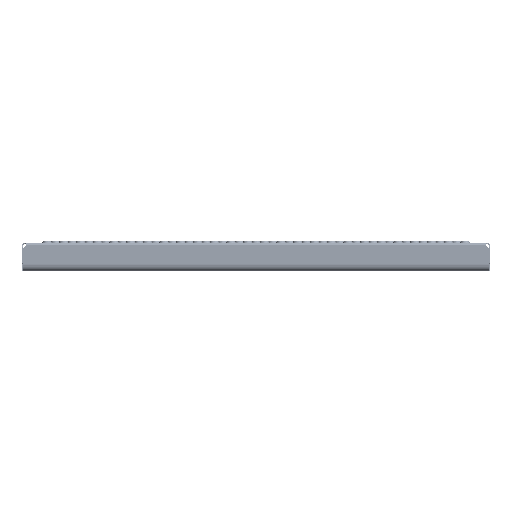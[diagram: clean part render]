
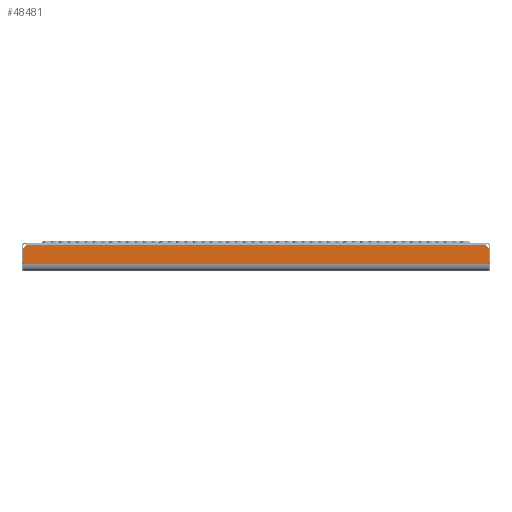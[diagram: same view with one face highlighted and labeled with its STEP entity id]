
A CAD part, top view. The second image highlights one B-rep face of the part: STEP entity #48481.
In plain terms, the highlighted planar face has unit normal (0, 0, 1).
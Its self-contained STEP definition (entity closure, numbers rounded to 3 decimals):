
#1592 = VERTEX_POINT ( 'NONE', #264378 ) ;
#29189 = CIRCLE ( 'NONE', #109485, 5. ) ;
#32246 = CARTESIAN_POINT ( 'NONE',  ( -349., -2.288, 125. ) ) ;
#35096 = ORIENTED_EDGE ( 'NONE', *, *, #150102, .T. ) ;
#41492 = VERTEX_POINT ( 'NONE', #75243 ) ;
#44032 = PLANE ( 'NONE',  #213097 ) ;
#48481 = ADVANCED_FACE ( 'NONE', ( #95829 ), #44032, .T. ) ;
#55353 = CARTESIAN_POINT ( 'NONE',  ( -347.99, -31.998, 125. ) ) ;
#60443 = ORIENTED_EDGE ( 'NONE', *, *, #169640, .F. ) ;
#70329 = VERTEX_POINT ( 'NONE', #181352 ) ;
#72558 = DIRECTION ( 'NONE',  ( 0., 1., 0. ) ) ;
#75243 = CARTESIAN_POINT ( 'NONE',  ( -344.302, -4., 125. ) ) ;
#92735 = CARTESIAN_POINT ( 'NONE',  ( -349., 245.712, 125. ) ) ;
#94354 = ORIENTED_EDGE ( 'NONE', *, *, #120355, .T. ) ;
#95829 = FACE_OUTER_BOUND ( 'NONE', #119922, .T. ) ;
#100242 = ORIENTED_EDGE ( 'NONE', *, *, #135789, .T. ) ;
#107650 = VECTOR ( 'NONE', #200309, 1000. ) ;
#109485 = AXIS2_PLACEMENT_3D ( 'NONE', #210741, #306690, #286192 ) ;
#118977 = VECTOR ( 'NONE', #131395, 1000. ) ;
#119922 = EDGE_LOOP ( 'NONE', ( #35096, #302347, #94354, #60443, #272878, #100242 ) ) ;
#120355 = EDGE_CURVE ( 'NONE', #70329, #294833, #29189, .T. ) ;
#131395 = DIRECTION ( 'NONE',  ( 1., 0., 0. ) ) ;
#135789 = EDGE_CURVE ( 'NONE', #138281, #263604, #211145, .T. ) ;
#138281 = VERTEX_POINT ( 'NONE', #223868 ) ;
#140473 = EDGE_CURVE ( 'NONE', #1592, #70329, #185689, .T. ) ;
#143574 = DIRECTION ( 'NONE',  ( 0., -1., 0. ) ) ;
#150102 = EDGE_CURVE ( 'NONE', #263604, #1592, #183045, .T. ) ;
#153122 = DIRECTION ( 'NONE',  ( 0., -1., 0. ) ) ;
#154863 = CARTESIAN_POINT ( 'NONE',  ( -347.99, -31.998, 125. ) ) ;
#169640 = EDGE_CURVE ( 'NONE', #41492, #294833, #175168, .T. ) ;
#175168 = LINE ( 'NONE', #178277, #107650 ) ;
#177711 = CIRCLE ( 'NONE', #243069, 5. ) ;
#178277 = CARTESIAN_POINT ( 'NONE',  ( -349., -4., 125. ) ) ;
#181352 = CARTESIAN_POINT ( 'NONE',  ( 347.99, -7.185, 125. ) ) ;
#183045 = LINE ( 'NONE', #154863, #118977 ) ;
#185689 = LINE ( 'NONE', #287789, #253712 ) ;
#200309 = DIRECTION ( 'NONE',  ( 1., 0., 0. ) ) ;
#210741 = CARTESIAN_POINT ( 'NONE',  ( 349., -2.288, 125. ) ) ;
#211145 = LINE ( 'NONE', #261481, #261615 ) ;
#213097 = AXIS2_PLACEMENT_3D ( 'NONE', #92735, #284369, #287500 ) ;
#223868 = CARTESIAN_POINT ( 'NONE',  ( -347.99, -7.185, 125. ) ) ;
#233529 = EDGE_CURVE ( 'NONE', #41492, #138281, #177711, .T. ) ;
#243069 = AXIS2_PLACEMENT_3D ( 'NONE', #32246, #247459, #153122 ) ;
#247459 = DIRECTION ( 'NONE',  ( 0., 0., -1. ) ) ;
#253712 = VECTOR ( 'NONE', #72558, 1000. ) ;
#261481 = CARTESIAN_POINT ( 'NONE',  ( -347.99, -7.185, 125. ) ) ;
#261615 = VECTOR ( 'NONE', #143574, 1000. ) ;
#263604 = VERTEX_POINT ( 'NONE', #55353 ) ;
#264378 = CARTESIAN_POINT ( 'NONE',  ( 347.99, -31.998, 125. ) ) ;
#272878 = ORIENTED_EDGE ( 'NONE', *, *, #233529, .T. ) ;
#284369 = DIRECTION ( 'NONE',  ( 0., 0., 1. ) ) ;
#286192 = DIRECTION ( 'NONE',  ( 0., -1., 0. ) ) ;
#287500 = DIRECTION ( 'NONE',  ( 0., -1., 0. ) ) ;
#287789 = CARTESIAN_POINT ( 'NONE',  ( 347.99, -7.185, 125. ) ) ;
#291153 = CARTESIAN_POINT ( 'NONE',  ( 344.302, -4., 125. ) ) ;
#294833 = VERTEX_POINT ( 'NONE', #291153 ) ;
#302347 = ORIENTED_EDGE ( 'NONE', *, *, #140473, .T. ) ;
#306690 = DIRECTION ( 'NONE',  ( 0., 0., -1. ) ) ;
